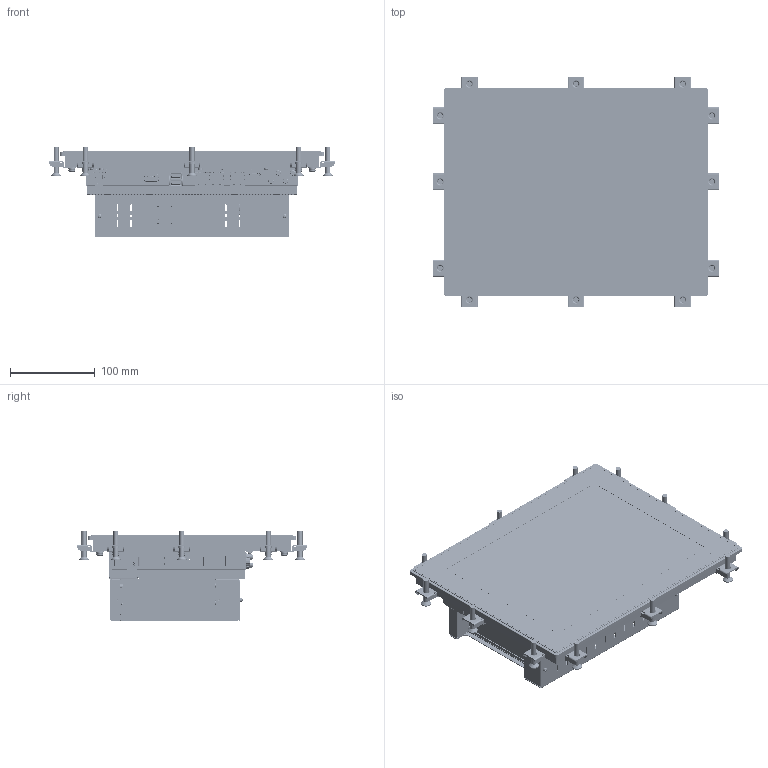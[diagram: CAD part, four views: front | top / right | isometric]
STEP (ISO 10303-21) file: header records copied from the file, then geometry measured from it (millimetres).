
FILE_DESCRIPTION((''),'2;1');
FILE_NAME('AP4C-121-Z','2026-06-02T11:44:47',('gijyu181'),(''),'CREO PARAMETRIC BY PTC INC, 2018050','CREO PARAMETRIC BY PTC INC, 2018050','');
FILE_SCHEMA(('CONFIG_CONTROL_DESIGN','SHAPE_APPEARANCE_LAYERS_GROUPS'));
Products named in the file (1): AP4C-121-Z
Bounding box: 337 x 271 x 107.1 mm (x, y, z)
Volume: 1456172.3 mm3; surface area: 1105621.3 mm2
Topology: 28 solids, 138 shells, 41207 faces, 118572 edges, 78197 vertices
Faces by surface type: plane 28142, cylinder 9852, extrusion 1462, cone 686, torus 509, bspline 342, sphere 202, revolution 12
Entity records: 1578372 total; most frequent: CARTESIAN_POINT 283791, ORIENTED_EDGE 235879, DIRECTION 215664, EDGE_CURVE 118440, VECTOR 92114, LINE 90652, VERTEX_POINT 78198, AXIS2_PLACEMENT_3D 61769
